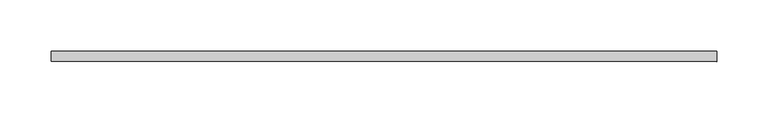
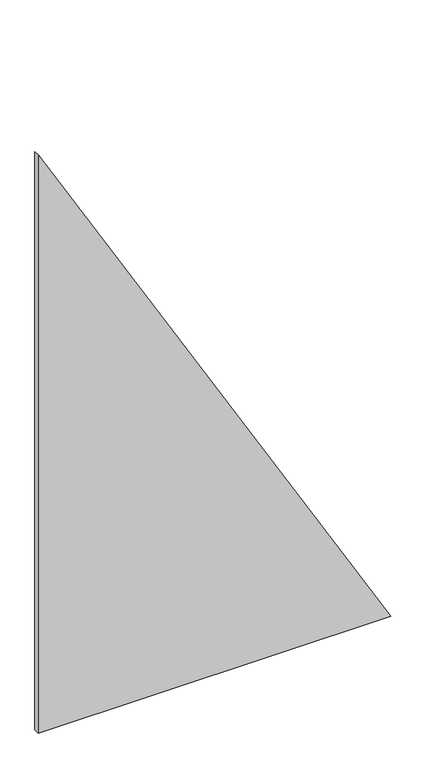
"""IFC4 building model written with IfcOpenShell, lengths in millimetres: plate geometry, 系統嵌板 : 玻璃 1.0cm."""

from ifc_helpers import new_model, si_unit, frame, origin, place, context, project, spatial, polyline, outline, extrude, source, transform, mapped, element, save


def plate_0db2ef74(model_context):
    return source(origin(), model_context, "Body", "SweptSolid", [
        extrude(outline(polyline([(0.0, -325.3175473), (0.0, 325.3175473), (1126.9330411, -325.3175473), (0.0, -325.3175473)])), frame((0.0, -5.0, 0.0), z_axis=(0.0, 1.0, 0.0), x_axis=(0.0, 0.0, 1.0)), (0.0, 0.0, 1.0), 10.0),
    ])


if __name__ == "__main__":
    model = new_model("IFC4")
    model_context = context("Model", 3, world=origin())
    ifc_project = project(units=[si_unit("LENGTHUNIT", "METRE", prefix="MILLI")], contexts=[model_context])
    site = spatial("IfcSite", under=ifc_project)
    building = spatial("IfcBuilding", under=site)
    placement = place(None, origin())
    plate_shape = plate_0db2ef74(model_context)
    element("IfcPlate", 1, ObjectType="系統嵌板 : 玻璃 1.0cm", at=placement, inside=building, context=model_context, shape_type="MappedRepresentation", body=[
        mapped(plate_shape, transform((0.0, 0.0, 0.0), x_axis=(1.0, 0.0, 0.0), y_axis=(0.0, 1.0, 0.0), z_axis=(0.0, 0.0, 1.0))),
    ])
    save(model, "model.ifc")
